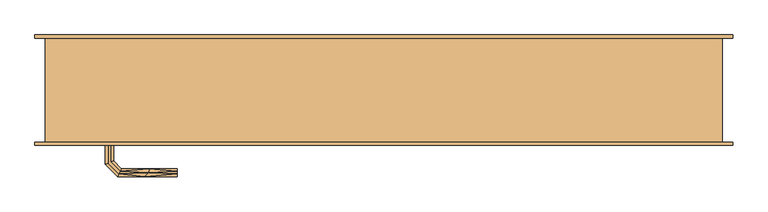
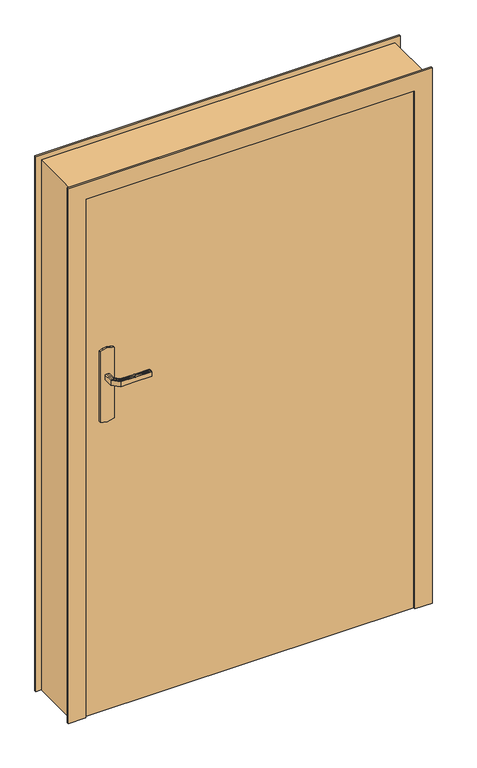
"""IFC4 building model written with IfcOpenShell, lengths in millimetres: door geometry, PP EXT - Vide sanitaire  (0.93m x 1.80m)."""

from ifc_helpers import new_model, si_unit, frame, origin, origin_with_axes, place, context, project, spatial, polyline, outline, extrude, faceted_brep, source, transform, mapped, element, save


def door_dd72ff1b(model_context):
    return source(origin(), model_context, "Body", "SolidModel", [
        faceted_brep([(92.9747013, -5.0, 1007.7804408), (97.0252987, -5.0, 1007.7804408), (101.0, -5.0, 1007.0), (101.0, -5.0, 993.0), (97.0252987, -5.0, 992.2195592), (92.9747013, -5.0, 992.2195592), (89.0, -5.0, 993.0), (89.0, -5.0, 1007.0), (89.0, -32.6509507, 1007.0), (92.9747013, -31.0045755, 1007.7804408), (109.0235852, -47.0534593, 1007.7804408), (110.7013975, -43.002862, 1007.7804408), (97.0252987, -29.3267632, 1007.7804408), (101.0, -27.680388, 1007.0), (101.0, -27.680388, 993.0), (97.0252987, -29.3267632, 992.2195592), (110.7013975, -43.002862, 992.2195592), (109.0235852, -47.0534593, 992.2195592), (92.9747013, -31.0045755, 992.2195592), (89.0, -32.6509507, 993.0), (107.37721, -51.0281607, 1007.0), (112.3477727, -39.0281607, 1007.0), (112.3477727, -39.0281607, 993.0), (107.37721, -51.0281607, 993.0), (195.0186406, -51.0281607, 993.0), (195.0186406, -47.0534593, 992.2195592), (195.0186406, -43.002862, 992.2195592), (195.0186406, -39.0281607, 993.0), (195.0186406, -39.0281607, 1007.0), (195.0186406, -43.002862, 1007.7804408), (195.0186406, -47.0534593, 1007.7804408), (195.0186406, -51.0281607, 1007.0), (147.3076972, -51.0281607, 1007.0), (152.8600191, -45.0281607, 1007.8786868), (153.6832067, -39.0281607, 1007.0), (153.6832067, -39.0281607, 993.0), (152.8600189, -45.0281608, 992.1213132), (147.3077002, -51.0281607, 993.0)], [[[0, 1, 2, 3, 4, 5, 6, 7]], [[8, 9, 0, 7]], [[9, 10, 11, 12, 1, 0]], [[12, 13, 2, 1]], [[3, 2, 13, 14]], [[14, 15, 4, 3]], [[15, 16, 17, 18, 5, 4]], [[18, 19, 6, 5]], [[7, 6, 19, 8]], [[20, 10, 9, 8]], [[11, 21, 13, 12]], [[14, 13, 21, 22]], [[22, 16, 15, 14]], [[17, 23, 19, 18]], [[8, 19, 23, 20]], [[24, 25, 26, 27, 28, 29, 30, 31]], [[32, 30, 33]], [[31, 30, 32]], [[10, 20, 32]], [[33, 34, 11]], [[21, 11, 34]], [[34, 29, 28]], [[30, 29, 33]], [[29, 34, 33]], [[10, 32, 33]], [[10, 33, 11]], [[22, 21, 34, 28, 27, 35]], [[35, 26, 36]], [[37, 36, 25]], [[22, 35, 16]], [[35, 27, 26]], [[24, 37, 25]], [[23, 17, 37]], [[37, 17, 36]], [[17, 16, 36]], [[16, 35, 36]], [[25, 36, 26]], [[20, 23, 37, 24, 31, 32]]]),
        extrude(outline(polyline([(866.0039831, 105.3527618), (870.0, 115.0), (1080.0, 115.0), (1083.9960169, 105.3527618), (1085.3589838, 95.0), (1083.9960169, 84.6472382), (1080.0, 75.0), (870.0, 75.0), (866.0039831, 84.6472382), (864.6410162, 95.0), (866.0039831, 105.3527618)])), frame((0.0, 40.0, 0.0), z_axis=(0.0, 1.0, 0.0), x_axis=(0.0, 0.0, 1.0)), (0.0, 0.0, 1.0), 5.0),
        faceted_brep([(0.0, 153.0, 0.0), (-15.0, 153.0, 0.0), (-15.0, 158.0, 0.0), (50.0, 158.0, 0.0), (50.0, 40.0, 0.0), (35.0, 40.0, 0.0), (35.0, -5.0, 0.0), (-15.0, -5.0, 0.0), (-15.0, 0.0, 0.0), (0.0, 0.0, 0.0), (0.0, 153.0, 1585.0), (1000.0, 153.0, 1585.0), (1000.0, 153.0, 0.0), (1015.0, 153.0, 0.0), (1015.0, 153.0, 1600.0), (-15.0, 153.0, 1600.0), (-15.0, 158.0, 1600.0), (1015.0, 158.0, 1600.0), (1015.0, 158.0, 0.0), (950.0, 158.0, 0.0), (950.0, 158.0, 1535.0), (50.0, 158.0, 1535.0), (50.0, 40.0, 1535.0), (950.0, 40.0, 1535.0), (950.0, 40.0, 0.0), (965.0, 40.0, 0.0), (965.0, 40.0, 1550.0), (35.0, 40.0, 1550.0), (35.0, -5.0, 1550.0), (965.0, -5.0, 1550.0), (965.0, -5.0, 0.0), (1015.0, -5.0, 0.0), (1015.0, -5.0, 1600.0), (-15.0, -5.0, 1600.0), (-15.0, 0.0, 1600.0), (1015.0, 0.0, 1600.0), (1015.0, 0.0, 0.0), (1000.0, 0.0, 0.0), (1000.0, 0.0, 1585.0), (0.0, 0.0, 1585.0)], [[[0, 1, 2, 3, 4, 5, 6, 7, 8, 9]], [[1, 0, 10, 11, 12, 13, 14, 15]], [[2, 1, 15, 16]], [[3, 2, 16, 17, 18, 19, 20, 21]], [[3, 21, 22, 4]], [[5, 4, 22, 23, 24, 25, 26, 27]], [[5, 27, 28, 6]], [[7, 6, 28, 29, 30, 31, 32, 33]], [[8, 7, 33, 34]], [[9, 8, 34, 35, 36, 37, 38, 39]], [[0, 9, 39, 10]], [[11, 38, 37, 12]], [[12, 37, 36, 31, 30, 25, 24, 19, 18, 13]], [[17, 14, 13, 18]], [[23, 20, 19, 24]], [[29, 26, 25, 30]], [[35, 32, 31, 36]], [[16, 15, 14, 17]], [[22, 21, 20, 23]], [[28, 27, 26, 29]], [[34, 33, 32, 35]], [[10, 39, 38, 11]]]),
        faceted_brep([(92.9747013, 45.0, 1007.7804408), (89.0, 45.0, 1007.0), (89.0, 45.0, 993.0), (92.9747013, 45.0, 992.2195592), (97.0252987, 45.0, 992.2195592), (101.0, 45.0, 993.0), (101.0, 45.0, 1007.0), (97.0252987, 45.0, 1007.7804408), (101.0, 67.4852045, 993.0), (101.0, 67.4852045, 1007.0), (97.0252987, 69.1315797, 1007.7804408), (110.8389062, 82.9451872, 1007.7804408), (109.1610938, 86.9957845, 1007.7804408), (92.9747013, 70.8093921, 1007.7804408), (89.0, 72.4557673, 1007.0), (89.0, 72.4557673, 993.0), (92.9747013, 70.8093921, 992.2195592), (109.1610938, 86.9957845, 992.2195592), (110.8389062, 82.9451872, 992.2195592), (97.0252987, 69.1315797, 992.2195592), (112.4852814, 78.9704859, 993.0), (112.4852814, 78.9704859, 1007.0), (107.5147186, 90.9704859, 1007.0), (107.5147186, 90.9704859, 993.0), (195.0457837, 78.9704859, 993.0), (195.0457837, 82.9451872, 992.2195592), (195.0457837, 86.9957845, 992.2195592), (195.0457837, 90.9704859, 993.0), (195.0457837, 90.9704859, 1007.0), (195.0457837, 86.9957845, 1007.7804408), (195.0457837, 82.9451872, 1007.7804408), (195.0457837, 78.9704859, 1007.0), (153.7655206, 78.9704859, 993.0), (153.7655325, 78.9704859, 1007.0), (152.9423449, 84.9704859, 1007.8786868), (147.4452058, 90.9704859, 1007.0), (147.4452043, 90.9704859, 993.0), (152.9423451, 84.9704858, 992.1213132)], [[[0, 1, 2, 3, 4, 5, 6, 7]], [[6, 5, 8, 9]], [[9, 10, 7, 6]], [[10, 11, 12, 13, 0, 7]], [[13, 14, 1, 0]], [[2, 1, 14, 15]], [[15, 16, 3, 2]], [[16, 17, 18, 19, 4, 3]], [[19, 8, 5, 4]], [[9, 8, 20, 21]], [[21, 11, 10, 9]], [[12, 22, 14, 13]], [[15, 14, 22, 23]], [[23, 17, 16, 15]], [[18, 20, 8, 19]], [[24, 25, 26, 27, 28, 29, 30, 31]], [[21, 20, 32, 24, 31, 33]], [[33, 30, 34]], [[35, 34, 29]], [[21, 33, 11]], [[33, 31, 30]], [[28, 35, 29]], [[22, 12, 35]], [[35, 12, 34]], [[12, 11, 34]], [[11, 33, 34]], [[29, 34, 30]], [[22, 35, 28, 27, 36, 23]], [[36, 26, 37]], [[27, 26, 36]], [[17, 23, 36]], [[37, 32, 18]], [[20, 18, 32]], [[32, 25, 24]], [[26, 25, 37]], [[25, 32, 37]], [[17, 36, 37]], [[17, 37, 18]]]),
        extrude(outline(polyline([(866.0039831, 105.3527618), (870.0, 115.0), (1080.0, 115.0), (1083.9960169, 105.3527618), (1085.3589838, 95.0), (1083.9960169, 84.6472382), (1080.0, 75.0), (870.0, 75.0), (866.0039831, 84.6472382), (864.6410162, 95.0), (866.0039831, 105.3527618)])), frame((0.0, -5.0, 0.0), z_axis=(0.0, 1.0, 0.0), x_axis=(0.0, 0.0, 1.0)), (0.0, 0.0, 1.0), 5.0),
        extrude(outline(polyline([(35.0, 40.0), (965.0, 40.0), (965.0, 0.0), (35.0, 0.0), (35.0, 40.0)])), origin_with_axes(), (0.0, 0.0, 1.0), 1550.0),
    ])


if __name__ == "__main__":
    model = new_model("IFC4")
    model_context = context("Model", 3, world=origin())
    ifc_project = project(units=[si_unit("LENGTHUNIT", "METRE", prefix="MILLI")], contexts=[model_context])
    site = spatial("IfcSite", under=ifc_project)
    building = spatial("IfcBuilding", under=site)
    placement = place(None, origin())
    door_shape = door_dd72ff1b(model_context)
    element("IfcDoor", 1, ObjectType="PP EXT - Vide sanitaire  (0.93m x 1.80m)", at=placement, inside=building, context=model_context, shape_type="MappedRepresentation", body=[
        mapped(door_shape, transform((0.0, 0.0, 0.0), x_axis=(1.0, 0.0, 0.0), y_axis=(0.0, 1.0, 0.0), z_axis=(0.0, 0.0, 1.0))),
    ])
    save(model, "model.ifc")
